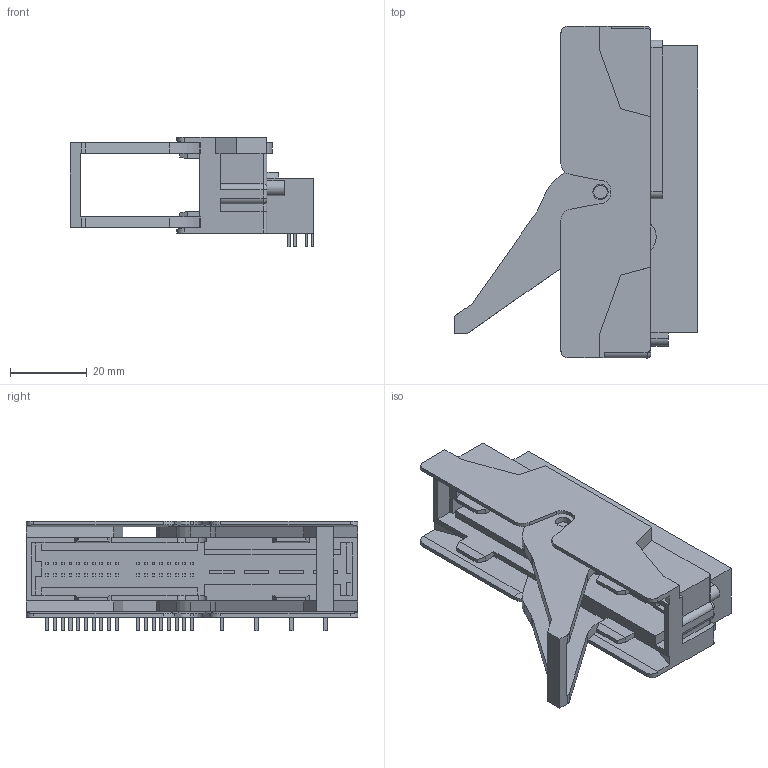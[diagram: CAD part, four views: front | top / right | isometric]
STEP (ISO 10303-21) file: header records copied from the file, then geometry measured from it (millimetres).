
FILE_DESCRIPTION(('CATIA V5 STEP Exchange','CAx-IF Rec.Pracs.--- Model Styling and Organization---1.2---2011-12-15'),'2;1');
FILE_NAME('N:\C-DAM_MyDesk\ENV\900093\6098-1107_CLOSE.stp','2014-11-27T02:17:51+00:00',('none'),('none'),'Version 5-6 Release 2012','CATIA V5 STEP AP214','none');
FILE_SCHEMA(('AUTOMOTIVE_DESIGN { 1 0 10303 214 1 1 1 1 }'));
Length unit declared in the file: millimetre
Products named in the file (1): 6098-1107_CLOSE
Bounding box: 63.22 x 86.3 x 28.6 mm (x, y, z)
Volume: 36734.6 mm3; surface area: 26301.4 mm2
Topology: 2 solids, 2 shells, 657 faces, 1704 edges, 1124 vertices
Faces by surface type: plane 579, cylinder 68, cone 8, torus 2
Entity records: 18276 total; most frequent: ORIENTED_EDGE 3408, CARTESIAN_POINT 3250, DIRECTION 2456, EDGE_CURVE 1704, VECTOR 1558, LINE 1558, VERTEX_POINT 1124, EDGE_LOOP 740
